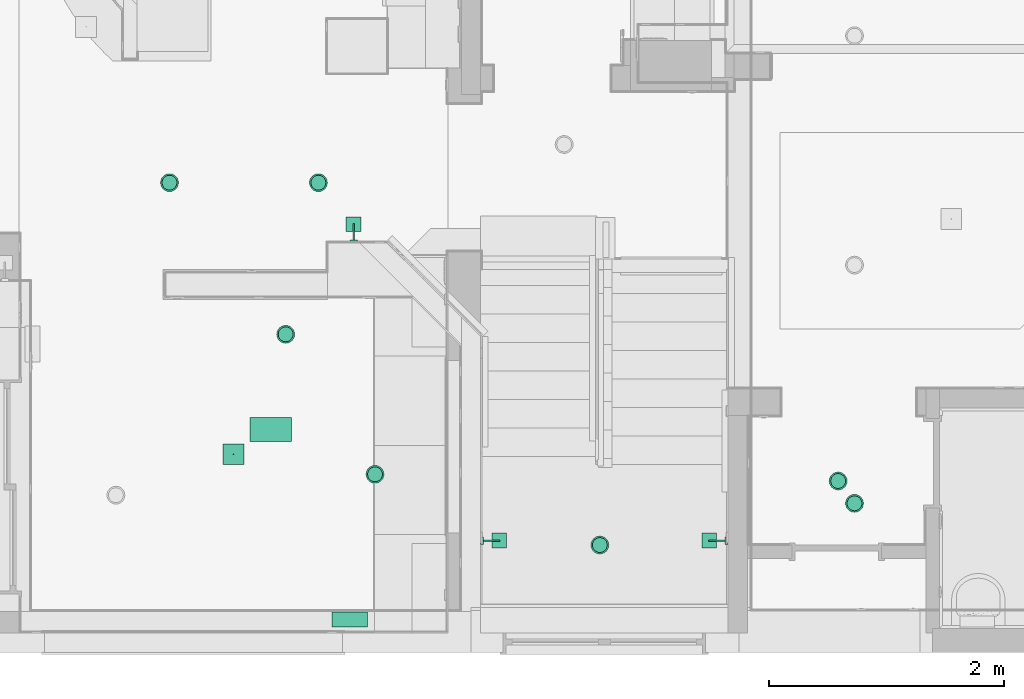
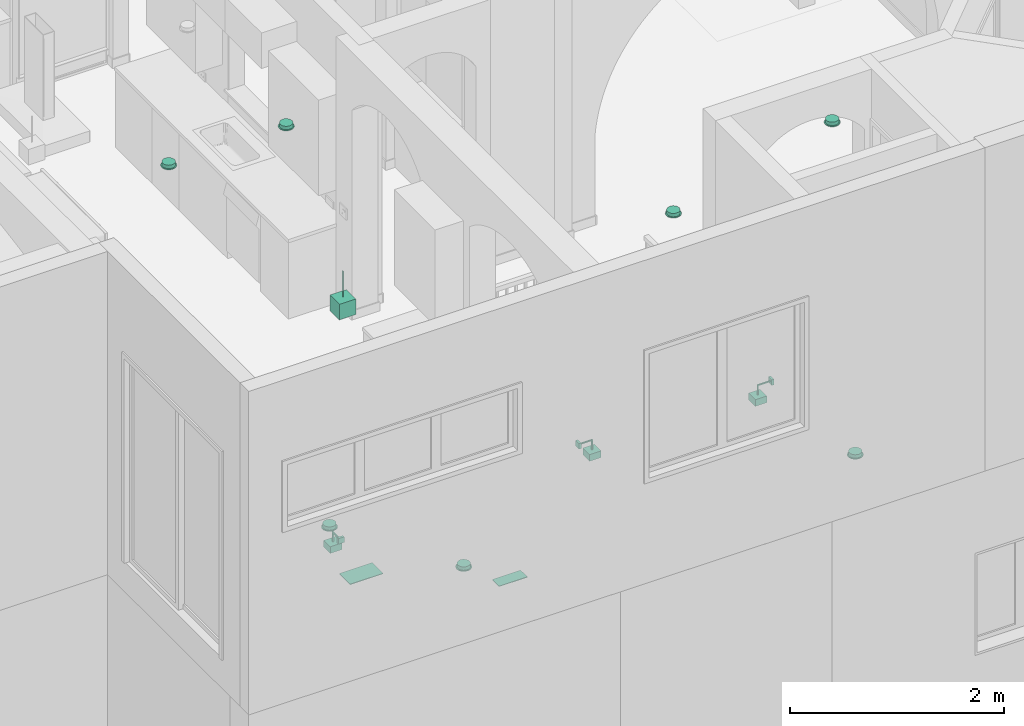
# One storey, part 37 of 60: 13 flow terminals.
"""IFC2X3 building model written with IfcOpenShell, lengths in feet."""

from ifc_helpers import new_model, entity, si_unit, converted_unit, direction, frame, frame_2d, origin, origin_2d_with_axis, place, context, subcontext, project, spatial, rectangle, extrude, faceted_brep, source, transform, mapped, material, material_list, type_object, type_shapes, element, save


model = new_model("IFC2X3")

# Units and contexts
model_context = context("Model", 3, precision=0.0001, world=origin(), true_north=direction((6.123031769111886e-17, 1.0)))
plan_context = context("Plan", 3, precision=0.0001, world=origin(), true_north=direction((6.123031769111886e-17, 1.0)))
body_context = subcontext(model_context, "Body", "Model", "MODEL_VIEW")
ifc_project = project(units=[converted_unit("LENGTHUNIT", "FOOT", entity("IfcLengthMeasure", 0.3048), si_unit("LENGTHUNIT", "METRE"), dimensions=[1, 0, 0, 0, 0, 0, 0]), converted_unit("AREAUNIT", "SQUARE FOOT", entity("IfcAreaMeasure", 0.09290304), si_unit("AREAUNIT", "SQUARE_METRE"), dimensions=[2, 0, 0, 0, 0, 0, 0]), converted_unit("PLANEANGLEUNIT", "DEGREE", entity("IfcPlaneAngleMeasure", 0.017453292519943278), si_unit("PLANEANGLEUNIT", "RADIAN"), dimensions=[0, 0, 0, 0, 0, 0, 0])], contexts=[model_context, plan_context])

# Site, building, storey
site_placement = place(None, origin())
site = spatial("IfcSite", under=ifc_project, at=site_placement, Name="Default", CompositionType="ELEMENT")
building_placement = place(site_placement, origin())
building = spatial("IfcBuilding", under=site, at=building_placement, CompositionType="ELEMENT")
storey_placement = place(building_placement, origin())
storey = spatial("IfcBuildingStorey", under=building, at=storey_placement, Name="First floor", CompositionType="ELEMENT", Elevation=0.0)

# Flow terminals
ifc_material_1 = material(Name="Default New Material")
ifc_material_2 = material(Name="Glass, White, High Luminance")
ifc_material_list = material_list([ifc_material_1, ifc_material_2])
light_fixture_type_1 = type_object("IfcLightFixtureType", Name="C_Spotlight Recessed:Light 2", PredefinedType="NOTDEFINED", material=ifc_material_list)
shared_shape_1 = source(origin(), body_context, "Body", "Brep", [
    faceted_brep([(-0.12499999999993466, 0.21650635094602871, 0.020833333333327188), (-0.17677669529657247, 0.17677669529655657, 0.020833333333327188), (-0.08333333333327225, 0.14433756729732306, 0.020833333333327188), (-0.04313650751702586, 0.1609876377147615, 0.020833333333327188), (-0.0647047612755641, 0.24148145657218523, 0.020833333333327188), (-0.11785113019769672, 0.11785113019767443, 0.020833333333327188), (-0.21650635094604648, 0.12499999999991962, 0.020833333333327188), (-0.1443375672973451, 0.08333333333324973, 0.020833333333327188), (-0.16098763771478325, 0.04313650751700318, 0.020833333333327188), (-0.2414814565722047, 0.06470476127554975, 0.020833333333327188), (-0.166666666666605, 0.0, 0.020833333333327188), (-0.24999999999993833, 0.0, 0.020833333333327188), (-0.16098763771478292, -0.043136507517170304, 0.020833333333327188), (-0.24148145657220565, -0.06470476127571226, 0.020833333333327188), (-0.14433756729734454, -0.08333333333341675, 0.020833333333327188), (-0.2165063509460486, -0.12500000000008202, 0.020833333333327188), (-0.117851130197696, -0.11785113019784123, 0.020833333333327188), (-0.1767766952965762, -0.17677669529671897, 0.020833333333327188), (-0.08333333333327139, -0.14433756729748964, 0.020833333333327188), (-0.12499999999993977, -0.21650635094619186, 0.020833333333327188), (-0.04313650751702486, -0.16098763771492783, 0.020833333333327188), (-0.06470476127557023, -0.24148145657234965, 0.020833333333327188), (0.0, -0.1666666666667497, 0.020833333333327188), (0.0, -0.25000000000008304, 0.020833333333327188), (0.04313650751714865, -0.1609876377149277, 0.020833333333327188), (0.06470476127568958, -0.24148145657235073, 0.020833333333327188), (0.08333333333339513, -0.1443375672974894, 0.020833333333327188), (0.12500000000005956, -0.21650635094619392, 0.020833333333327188), (0.11785113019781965, -0.11785113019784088, 0.020833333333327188), (0.1767766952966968, -0.1767766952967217, 0.020833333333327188), (0.14433756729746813, -0.0833333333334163, 0.020833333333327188), (0.21650635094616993, -0.12500000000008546, 0.020833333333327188), (0.24148145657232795, -0.06470476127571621, 0.020833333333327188), (0.16098763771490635, -0.0431365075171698, 0.020833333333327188), (0.2500000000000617, 0.0, 0.020833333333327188), (0.1666666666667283, 0.0, 0.020833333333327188), (0.24148145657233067, 0.06470476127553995, 0.020833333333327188), (0.16098763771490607, 0.04313650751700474, 0.020833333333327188), (0.21650635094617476, 0.12499999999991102, 0.020833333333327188), (0.14433756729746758, 0.08333333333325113, 0.020833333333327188), (0.17677669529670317, 0.17677669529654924, 0.020833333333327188), (0.1178511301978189, 0.11785113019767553, 0.020833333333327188), (0.1250000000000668, 0.21650635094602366, 0.020833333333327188), (0.08333333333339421, 0.14433756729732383, 0.020833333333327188), (0.06470476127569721, 0.2414814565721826, 0.020833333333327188), (0.04313650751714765, 0.16098763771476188, 0.020833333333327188), (0.0, 0.24999999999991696, 0.020833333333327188), (0.0, 0.1666666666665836, 0.020833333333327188), (-0.12499999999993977, -0.21650635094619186, 0.0), (-0.1767766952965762, -0.17677669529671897, 0.0), (-0.08333333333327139, -0.14433756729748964, 0.0), (-0.04313650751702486, -0.16098763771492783, 0.0), (-0.06470476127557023, -0.24148145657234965, 0.0), (-0.117851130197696, -0.11785113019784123, 0.0), (-0.2165063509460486, -0.12500000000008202, 0.0), (-0.14433756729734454, -0.08333333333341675, 0.0), (-0.16098763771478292, -0.043136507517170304, 0.0), (-0.24148145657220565, -0.06470476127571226, 0.0), (-0.166666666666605, 0.0, 0.0), (-0.24999999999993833, 0.0, 0.0), (-0.16098763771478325, 0.04313650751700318, 0.0), (-0.2414814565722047, 0.06470476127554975, 0.0), (-0.1443375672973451, 0.08333333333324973, 0.0), (-0.21650635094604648, 0.12499999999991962, 0.0), (-0.11785113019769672, 0.11785113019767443, 0.0), (-0.17677669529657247, 0.17677669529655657, 0.0), (-0.08333333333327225, 0.14433756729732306, 0.0), (-0.12499999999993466, 0.21650635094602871, 0.0), (-0.04313650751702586, 0.1609876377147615, 0.0), (-0.0647047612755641, 0.24148145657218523, 0.0), (0.0, 0.1666666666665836, 0.0), (0.0, 0.24999999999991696, 0.0), (0.04313650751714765, 0.16098763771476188, 0.0), (0.06470476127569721, 0.2414814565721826, 0.0), (0.08333333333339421, 0.14433756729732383, 0.0), (0.1250000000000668, 0.21650635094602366, 0.0), (0.1178511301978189, 0.11785113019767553, 0.0), (0.17677669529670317, 0.17677669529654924, 0.0), (0.14433756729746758, 0.08333333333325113, 0.0), (0.21650635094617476, 0.12499999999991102, 0.0), (0.24148145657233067, 0.06470476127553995, 0.0), (0.16098763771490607, 0.04313650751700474, 0.0), (0.2500000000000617, 0.0, 0.0), (0.1666666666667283, 0.0, 0.0), (0.24148145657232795, -0.06470476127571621, 0.0), (0.16098763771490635, -0.0431365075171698, 0.0), (0.21650635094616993, -0.12500000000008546, 0.0), (0.14433756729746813, -0.0833333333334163, 0.0), (0.1767766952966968, -0.1767766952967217, 0.0), (0.11785113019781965, -0.11785113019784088, 0.0), (0.12500000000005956, -0.21650635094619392, 0.0), (0.08333333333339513, -0.1443375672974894, 0.0), (0.06470476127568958, -0.24148145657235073, 0.0), (0.04313650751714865, -0.1609876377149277, 0.0), (0.0, -0.25000000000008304, 0.0), (0.0, -0.1666666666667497, 0.0)], [[[0, 1, 2]], [[0, 2, 3]], [[3, 4, 0]], [[2, 1, 5]], [[6, 5, 1]], [[7, 5, 6]], [[8, 7, 6]], [[8, 6, 9]], [[8, 9, 10]], [[10, 9, 11]], [[12, 10, 11]], [[12, 11, 13]], [[14, 12, 13]], [[14, 13, 15]], [[16, 14, 15]], [[15, 17, 16]], [[17, 18, 16]], [[18, 17, 19]], [[18, 19, 20]], [[21, 20, 19]], [[20, 21, 22]], [[22, 21, 23]], [[23, 24, 22]], [[24, 23, 25]], [[24, 25, 26]], [[27, 26, 25]], [[27, 28, 26]], [[27, 29, 28]], [[30, 28, 29]], [[31, 30, 29]], [[32, 30, 31]], [[33, 30, 32]], [[33, 32, 34]], [[34, 35, 33]], [[36, 35, 34]], [[36, 37, 35]], [[37, 36, 38]], [[39, 37, 38]], [[39, 38, 40]], [[39, 40, 41]], [[40, 42, 41]], [[41, 42, 43]], [[43, 42, 44]], [[44, 45, 43]], [[46, 45, 44]], [[4, 47, 46]], [[45, 46, 47]], [[4, 3, 47]], [[48, 49, 50]], [[48, 50, 51]], [[51, 52, 48]], [[50, 49, 53]], [[54, 53, 49]], [[55, 53, 54]], [[56, 55, 54]], [[56, 54, 57]], [[56, 57, 58]], [[58, 57, 59]], [[60, 58, 59]], [[60, 59, 61]], [[62, 60, 61]], [[62, 61, 63]], [[64, 62, 63]], [[63, 65, 64]], [[65, 66, 64]], [[66, 65, 67]], [[66, 67, 68]], [[69, 68, 67]], [[68, 69, 70]], [[70, 69, 71]], [[71, 72, 70]], [[72, 71, 73]], [[72, 73, 74]], [[75, 74, 73]], [[75, 76, 74]], [[75, 77, 76]], [[78, 76, 77]], [[79, 78, 77]], [[80, 78, 79]], [[81, 78, 80]], [[81, 80, 82]], [[82, 83, 81]], [[84, 83, 82]], [[84, 85, 83]], [[85, 84, 86]], [[87, 85, 86]], [[87, 86, 88]], [[87, 88, 89]], [[88, 90, 89]], [[89, 90, 91]], [[91, 90, 92]], [[92, 93, 91]], [[94, 93, 92]], [[52, 95, 94]], [[93, 94, 95]], [[52, 51, 95]], [[10, 58, 60, 8]], [[8, 60, 62, 7]], [[2, 5, 64, 66]], [[62, 64, 5, 7]], [[3, 2, 66, 68]], [[70, 47, 3, 68]], [[45, 72, 74, 43]], [[43, 74, 76, 41]], [[37, 39, 78, 81]], [[76, 78, 39, 41]], [[35, 37, 81, 83]], [[45, 47, 70, 72]], [[35, 83, 85, 33]], [[33, 85, 87, 30]], [[26, 28, 89, 91]], [[87, 89, 28, 30]], [[24, 26, 91, 93]], [[95, 22, 24, 93]], [[20, 51, 50, 18]], [[18, 50, 53, 16]], [[12, 14, 55, 56]], [[53, 55, 14, 16]], [[10, 12, 56, 58]], [[20, 22, 95, 51]], [[57, 13, 11, 59]], [[54, 15, 13, 57]], [[19, 17, 49, 48]], [[54, 49, 17, 15]], [[21, 19, 48, 52]], [[23, 21, 52, 94]], [[92, 25, 23, 94]], [[90, 27, 25, 92]], [[31, 29, 88, 86]], [[90, 88, 29, 27]], [[32, 31, 86, 84]], [[34, 32, 84, 82]], [[80, 36, 34, 82]], [[79, 38, 36, 80]], [[42, 40, 77, 75]], [[79, 77, 40, 38]], [[44, 42, 75, 73]], [[46, 44, 73, 71]], [[69, 4, 46, 71]], [[67, 0, 4, 69]], [[6, 1, 65, 63]], [[67, 65, 1, 0]], [[9, 6, 63, 61]], [[11, 9, 61, 59]]]),
    faceted_brep([(0.043136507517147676, -0.160987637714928, 0.020833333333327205), (0.08333333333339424, -0.14433756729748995, 0.020833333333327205), (0.11785113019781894, -0.11785113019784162, 0.020833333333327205), (0.14433756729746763, -0.08333333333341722, 0.020833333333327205), (0.16098763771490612, -0.043136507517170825, 0.020833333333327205), (0.16666666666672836, 0.0, 0.020833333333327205), (0.1609876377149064, 0.04313650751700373, 0.020833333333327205), (0.1443375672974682, 0.08333333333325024, 0.020833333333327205), (0.11785113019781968, 0.11785113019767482, 0.020833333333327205), (0.08333333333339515, 0.14433756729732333, 0.020833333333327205), (0.043136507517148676, 0.16098763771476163, 0.020833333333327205), (0.0, 0.16666666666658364, 0.020833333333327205), (-0.04313650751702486, 0.16098763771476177, 0.020833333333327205), (-0.08333333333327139, 0.14433756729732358, 0.020833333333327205), (-0.117851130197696, 0.11785113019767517, 0.020833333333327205), (-0.1443375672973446, 0.08333333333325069, 0.020833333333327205), (-0.16098763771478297, 0.043136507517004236, 0.020833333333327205), (-0.166666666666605, 0.0, 0.020833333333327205), (-0.1609876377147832, -0.04313650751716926, 0.020833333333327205), (-0.14433756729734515, -0.08333333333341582, 0.020833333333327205), (-0.11785113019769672, -0.11785113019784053, 0.020833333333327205), (-0.08333333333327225, -0.14433756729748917, 0.020833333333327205), (-0.04313650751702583, -0.1609876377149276, 0.020833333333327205), (0.0, -0.16666666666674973, 0.020833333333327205), (0.043136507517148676, 0.16098763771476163, 0.0), (0.08333333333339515, 0.14433756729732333, 0.0), (0.11785113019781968, 0.11785113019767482, 0.0), (0.1443375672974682, 0.08333333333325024, 0.0), (0.1609876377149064, 0.04313650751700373, 0.0), (0.16666666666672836, 0.0, 0.0), (0.16098763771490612, -0.043136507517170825, 0.0), (0.14433756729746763, -0.08333333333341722, 0.0), (0.11785113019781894, -0.11785113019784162, 0.0), (0.08333333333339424, -0.14433756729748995, 0.0), (0.043136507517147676, -0.160987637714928, 0.0), (0.0, -0.16666666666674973, 0.0), (-0.04313650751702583, -0.1609876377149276, 0.0), (-0.08333333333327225, -0.14433756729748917, 0.0), (-0.11785113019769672, -0.11785113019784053, 0.0), (-0.14433756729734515, -0.08333333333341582, 0.0), (-0.1609876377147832, -0.04313650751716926, 0.0), (-0.166666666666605, 0.0, 0.0), (-0.16098763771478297, 0.043136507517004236, 0.0), (-0.1443375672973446, 0.08333333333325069, 0.0), (-0.117851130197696, 0.11785113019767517, 0.0), (-0.08333333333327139, 0.14433756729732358, 0.0), (-0.04313650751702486, 0.16098763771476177, 0.0), (0.0, 0.16666666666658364, 0.0)], [[[0, 1, 2, 3, 4, 5, 6, 7, 8, 9, 10, 11, 12, 13, 14, 15, 16, 17, 18, 19, 20, 21, 22, 23]], [[24, 25, 26, 27, 28, 29, 30, 31, 32, 33, 34, 35, 36, 37, 38, 39, 40, 41, 42, 43, 44, 45, 46, 47]], [[40, 18, 17, 41]], [[39, 19, 18, 40]], [[21, 20, 38, 37]], [[39, 38, 20, 19]], [[22, 21, 37, 36]], [[23, 22, 36, 35]], [[34, 0, 23, 35]], [[33, 1, 0, 34]], [[3, 2, 32, 31]], [[33, 32, 2, 1]], [[4, 3, 31, 30]], [[5, 4, 30, 29]], [[28, 6, 5, 29]], [[27, 7, 6, 28]], [[9, 8, 26, 25]], [[27, 26, 8, 7]], [[10, 9, 25, 24]], [[11, 10, 24, 47]], [[46, 12, 11, 47]], [[45, 13, 12, 46]], [[15, 14, 44, 43]], [[45, 44, 14, 13]], [[16, 15, 43, 42]], [[17, 16, 42, 41]]]),
    faceted_brep([(0.0, -0.16666666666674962, -0.10416666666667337), (0.04313650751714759, -0.1609876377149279, -0.10416666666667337), (0.08333333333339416, -0.1443375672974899, -0.10416666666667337), (0.1178511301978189, -0.11785113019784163, -0.10416666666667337), (0.1443375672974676, -0.08333333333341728, -0.10416666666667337), (0.16098763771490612, -0.043136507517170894, -0.10416666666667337), (0.16666666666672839, 0.0, -0.10416666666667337), (0.16098763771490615, 0.04313650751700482, -0.10416666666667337), (0.14433756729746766, 0.08333333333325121, -0.10416666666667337), (0.11785113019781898, 0.11785113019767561, -0.10416666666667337), (0.0833333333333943, 0.14433756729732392, -0.10416666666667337), (0.04313650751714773, 0.16098763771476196, -0.10416666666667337), (0.0, 0.1666666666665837, -0.10416666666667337), (-0.043136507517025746, 0.16098763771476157, -0.10416666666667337), (-0.08333333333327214, 0.14433756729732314, -0.10416666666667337), (-0.11785113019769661, 0.11785113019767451, -0.10416666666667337), (-0.14433756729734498, 0.08333333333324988, -0.10416666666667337), (-0.16098763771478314, 0.04313650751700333, -0.10416666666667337), (-0.16666666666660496, 0.0, -0.10416666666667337), (-0.16098763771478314, -0.04313650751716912, -0.10416666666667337), (-0.1443375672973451, -0.08333333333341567, -0.10416666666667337), (-0.11785113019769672, -0.11785113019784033, -0.10416666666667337), (-0.08333333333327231, -0.14433756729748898, -0.10416666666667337), (-0.04313650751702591, -0.16098763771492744, -0.10416666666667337), (0.0, 0.20833333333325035, -0.12500000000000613), (0.053920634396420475, 0.20123454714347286, -0.12500000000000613), (0.10416666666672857, 0.18042195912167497, -0.12500000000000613), (0.14731391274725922, 0.14731391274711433, -0.12500000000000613), (0.18042195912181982, 0.1041666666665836, -0.12500000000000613), (0.2012345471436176, 0.053920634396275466, -0.12500000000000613), (0.20833333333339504, 0.0, -0.12500000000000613), (0.20123454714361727, -0.0539206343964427, -0.12500000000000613), (0.18042195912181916, -0.10416666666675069, -0.12500000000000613), (0.1473139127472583, -0.14731391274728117, -0.12500000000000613), (0.10416666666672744, -0.18042195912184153, -0.12500000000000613), (0.053920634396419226, -0.2012345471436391, -0.12500000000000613), (0.0, -0.20833333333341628, -0.12500000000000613), (-0.05392063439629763, -0.20123454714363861, -0.12500000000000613), (-0.10416666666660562, -0.18042195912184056, -0.12500000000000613), (-0.14731391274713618, -0.1473139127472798, -0.12500000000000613), (-0.18042195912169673, -0.10416666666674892, -0.12500000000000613), (-0.20123454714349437, -0.05392063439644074, -0.12500000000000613), (-0.2083333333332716, 0.0, -0.12500000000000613), (-0.20123454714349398, 0.053920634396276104, -0.12500000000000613), (-0.18042195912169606, 0.10416666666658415, -0.12500000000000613), (-0.1473139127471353, 0.14731391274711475, -0.12500000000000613), (-0.10416666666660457, 0.1804219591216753, -0.12500000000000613), (-0.05392063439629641, 0.20123454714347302, -0.12500000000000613), (-0.2012345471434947, -0.053920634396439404, -0.10416666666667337), (-0.20123454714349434, -0.053920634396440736, 0.0), (-0.20833333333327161, 0.0, 0.0), (-0.2083333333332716, 0.0, -0.10416666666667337), (-0.1804219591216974, -0.10416666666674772, -0.10416666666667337), (-0.1804219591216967, -0.10416666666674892, 0.0), (-0.10416666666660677, -0.18042195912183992, -0.10416666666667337), (-0.10416666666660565, -0.18042195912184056, 0.0), (-0.1473139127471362, -0.1473139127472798, 0.0), (-0.14731391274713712, -0.14731391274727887, -0.10416666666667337), (-0.053920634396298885, -0.20123454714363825, -0.10416666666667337), (-0.05392063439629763, -0.20123454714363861, 0.0), (0.0, -0.20833333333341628, -0.10416666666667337), (0.0, -0.20833333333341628, 0.0), (0.05392063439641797, -0.20123454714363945, -0.10416666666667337), (0.053920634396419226, -0.2012345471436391, 0.0), (0.10416666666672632, -0.1804219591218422, -0.10416666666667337), (0.10416666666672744, -0.18042195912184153, 0.0), (0.1804219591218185, -0.1041666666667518, -0.10416666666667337), (0.18042195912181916, -0.10416666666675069, 0.0), (0.1473139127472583, -0.14731391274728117, 0.0), (0.1473139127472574, -0.1473139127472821, -0.10416666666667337), (0.20123454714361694, -0.05392063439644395, -0.10416666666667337), (0.20123454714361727, -0.05392063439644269, 0.0), (0.20833333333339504, 0.0, -0.10416666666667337), (0.20833333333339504, 0.0, 0.0), (0.2012345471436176, 0.053920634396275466, -0.10416666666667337), (0.2012345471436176, 0.05392063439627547, 0.0), (0.18042195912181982, 0.1041666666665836, -0.10416666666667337), (0.18042195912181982, 0.1041666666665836, 0.0), (0.10416666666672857, 0.18042195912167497, -0.10416666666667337), (0.10416666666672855, 0.18042195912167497, 0.0), (0.14731391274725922, 0.14731391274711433, 0.0), (0.14731391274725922, 0.14731391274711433, -0.10416666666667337), (0.053920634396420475, 0.20123454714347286, -0.10416666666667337), (0.053920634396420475, 0.20123454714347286, 0.0), (0.0, 0.20833333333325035, -0.10416666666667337), (0.0, 0.20833333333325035, 0.0), (-0.05392063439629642, 0.20123454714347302, -0.10416666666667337), (-0.05392063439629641, 0.20123454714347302, 0.0), (-0.10416666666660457, 0.1804219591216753, -0.10416666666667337), (-0.10416666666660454, 0.1804219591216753, 0.0), (-0.18042195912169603, 0.10416666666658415, -0.10416666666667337), (-0.18042195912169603, 0.10416666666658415, 0.0), (-0.14731391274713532, 0.14731391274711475, 0.0), (-0.14731391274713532, 0.14731391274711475, -0.10416666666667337), (-0.20123454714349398, 0.053920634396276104, -0.10416666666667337), (-0.20123454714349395, 0.05392063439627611, 0.0), (-0.08333333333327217, 0.14433756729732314, 0.0), (-0.043136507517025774, 0.16098763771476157, 0.0), (-0.11785113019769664, 0.11785113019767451, 0.0), (-0.144337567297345, 0.08333333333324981, 0.0), (-0.16098763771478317, 0.04313650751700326, 0.0), (-0.16666666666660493, 0.0, 0.0), (-0.16098763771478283, -0.04313650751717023, 0.0), (-0.14433756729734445, -0.08333333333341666, 0.0), (-0.11785113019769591, -0.11785113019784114, 0.0), (-0.08333333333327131, -0.14433756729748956, 0.0), (-0.043136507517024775, -0.16098763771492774, 0.0), (0.0, -0.16666666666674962, 0.0), (0.04313650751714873, -0.1609876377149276, 0.0), (0.08333333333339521, -0.1443375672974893, 0.0), (0.11785113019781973, -0.1178511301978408, 0.0), (0.14433756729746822, -0.08333333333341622, 0.0), (0.16098763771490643, -0.04313650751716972, 0.0), (0.16666666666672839, 0.0, 0.0), (0.16098763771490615, 0.04313650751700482, 0.0), (0.14433756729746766, 0.08333333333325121, 0.0), (0.11785113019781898, 0.11785113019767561, 0.0), (0.0833333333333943, 0.14433756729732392, 0.0), (0.04313650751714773, 0.16098763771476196, 0.0), (0.0, 0.1666666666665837, 0.0)], [[[0, 1, 2, 3, 4, 5, 6, 7, 8, 9, 10, 11, 12, 13, 14, 15, 16, 17, 18, 19, 20, 21, 22, 23]], [[24, 25, 26, 27, 28, 29, 30, 31, 32, 33, 34, 35, 36, 37, 38, 39, 40, 41, 42, 43, 44, 45, 46, 47]], [[41, 48, 49, 50, 51, 42]], [[40, 52, 53, 49, 48, 41]], [[54, 55, 56, 57, 39, 38]], [[40, 39, 57, 56, 53, 52]], [[58, 59, 55, 54, 38, 37]], [[60, 61, 59, 58, 37, 36]], [[35, 62, 63, 61, 60, 36]], [[34, 64, 65, 63, 62, 35]], [[66, 67, 68, 69, 33, 32]], [[34, 33, 69, 68, 65, 64]], [[70, 71, 67, 66, 32, 31]], [[72, 73, 71, 70, 31, 30]], [[29, 74, 75, 73, 72, 30]], [[28, 76, 77, 75, 74, 29]], [[78, 79, 80, 81, 27, 26]], [[28, 27, 81, 80, 77, 76]], [[82, 83, 79, 78, 26, 25]], [[84, 85, 83, 82, 25, 24]], [[47, 86, 87, 85, 84, 24]], [[46, 88, 89, 87, 86, 47]], [[90, 91, 92, 93, 45, 44]], [[46, 45, 93, 92, 89, 88]], [[94, 95, 91, 90, 44, 43]], [[51, 50, 95, 94, 43, 42]], [[89, 92, 96]], [[89, 96, 97]], [[97, 87, 89]], [[96, 92, 98]], [[91, 98, 92]], [[99, 98, 91]], [[100, 99, 91]], [[100, 91, 95]], [[100, 95, 101]], [[101, 95, 50]], [[102, 101, 50]], [[102, 50, 49]], [[103, 102, 49]], [[103, 49, 53]], [[104, 103, 53]], [[53, 56, 104]], [[56, 105, 104]], [[105, 56, 55]], [[105, 55, 106]], [[59, 106, 55]], [[106, 59, 107]], [[107, 59, 61]], [[61, 108, 107]], [[108, 61, 63]], [[108, 63, 109]], [[65, 109, 63]], [[65, 110, 109]], [[65, 68, 110]], [[111, 110, 68]], [[67, 111, 68]], [[71, 111, 67]], [[112, 111, 71]], [[112, 71, 73]], [[73, 113, 112]], [[75, 113, 73]], [[75, 114, 113]], [[114, 75, 77]], [[115, 114, 77]], [[115, 77, 80]], [[115, 80, 116]], [[80, 79, 116]], [[116, 79, 117]], [[117, 79, 83]], [[83, 118, 117]], [[85, 118, 83]], [[87, 119, 85]], [[85, 119, 118]], [[87, 97, 119]], [[113, 6, 5, 112]], [[112, 5, 4, 111]], [[109, 110, 3, 2]], [[4, 3, 110, 111]], [[108, 109, 2, 1]], [[0, 107, 108, 1]], [[104, 105, 22, 21]], [[23, 22, 105, 106]], [[102, 103, 20, 19]], [[104, 21, 20, 103]], [[102, 19, 18, 101]], [[0, 23, 106, 107]], [[101, 18, 17, 100]], [[100, 17, 16, 99]], [[96, 98, 15, 14]], [[16, 15, 98, 99]], [[97, 96, 14, 13]], [[12, 119, 97, 13]], [[118, 11, 10, 117]], [[117, 10, 9, 116]], [[114, 115, 8, 7]], [[9, 8, 115, 116]], [[113, 114, 7, 6]], [[118, 119, 12, 11]]]),
])
type_shapes(light_fixture_type_1, [shared_shape_1])
for number, where, z_axis, x_axis, name in (
    (1, (23.458333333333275, 4.791666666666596, 20.666666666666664), (0.0, 0.0, -1.0), (1.0, -1.3611479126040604e-06, 0.0), "C_Spotlight Recessed:Light 2"),
    (2, (16.791666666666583, 3.0, 20.666666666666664), (0.0, 0.0, -1.0), (1.0, 1.5552947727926e-05, 0.0), "C_Spotlight Recessed:Light 2"),
    (3, (4.749662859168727, 13.139818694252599, 20.541666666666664), (0.0, 0.0, -1.0), (0.0, -1.0, 0.0), "C_Spotlight Recessed:Light 2"),
    (4, (8.916329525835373, 13.139818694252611, 20.541666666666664), (0.0, 0.0, -1.0), (0.0, -1.0, 0.0), "C_Spotlight Recessed:Light 2"),
    (5, (23.91666666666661, 4.16675407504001, 8.416666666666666), (0.0, 0.0, -1.0), (0.0, -1.0, 0.0), "C_Spotlight Recessed:Light 2"),
    (6, (10.499998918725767, 4.979166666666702, 8.416666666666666), (0.0, 0.0, -1.0), (0.0, -1.0, 0.0), "C_Spotlight Recessed:Light 2"),
    (7, (7.999998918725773, 8.89587285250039, 8.416666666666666), (0.0, 0.0, -1.0), (0.0, -1.0, 0.0), "C_Spotlight Recessed:Light 2"),
):
    element("IfcFlowTerminal", number, at=place(storey_placement, frame(where, z_axis=z_axis, x_axis=x_axis)), inside=storey, type_object=light_fixture_type_1, material=ifc_material_list, Name=name, ObjectType="C_Spotlight Recessed:Light 2", context=body_context, shape_type="MappedRepresentation", body=[
        mapped(shared_shape_1, transform((0.0, 0.0, 0.0), scale=1.0)),
    ])
air_terminal_type_1 = type_object("IfcAirTerminalType", Name="C_Grill_Surface Based:Standard 2", PredefinedType="NOTDEFINED", material=ifc_material_1)
shared_shape_2 = source(origin(), body_context, "Body", "SweptSolid", [
    extrude(rectangle(XDim=0.4166666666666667, YDim=0.9999999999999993, at=origin_2d_with_axis()), frame((0.0, 0.0, 0.0), z_axis=(0.0, 0.0, 1.0), x_axis=(-1.0, 0.0, 0.0)), (0.0, 0.0, 1.0), 0.020833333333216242),
])
type_shapes(air_terminal_type_1, [shared_shape_2])
flow_terminal_1_placement = place(storey_placement, frame((9.79166666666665, 0.91666666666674, 10.666666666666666), z_axis=(0.0, 0.0, 1.0), x_axis=(0.0, -1.0, 0.0)))
element("IfcFlowTerminal", 8, at=flow_terminal_1_placement, inside=storey, type_object=air_terminal_type_1, material=ifc_material_1, Name="C_Grill_Surface Based:Standard 2", ObjectType="C_Grill_Surface Based:Standard 2", context=body_context, shape_type="MappedRepresentation", body=[
    mapped(shared_shape_2, transform((0.0, 0.0, 0.0), scale=1.0)),
])
air_terminal_type_2 = type_object("IfcAirTerminalType", Name="C_Grill_Surface Based:Standard 2", PredefinedType="NOTDEFINED", material=ifc_material_1)
shared_shape_3 = source(origin(), body_context, "Body", "SweptSolid", [
    extrude(rectangle(XDim=0.6666666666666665, YDim=1.1666666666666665, at=frame_2d((-2.7755575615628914e-17, 0.0), x_axis=(1.0, 0.0))), frame((0.0, 0.0, 0.0), z_axis=(0.0, 0.0, 1.0), x_axis=(-1.0, 0.0, 0.0)), (0.0, 0.0, 1.0), 0.020833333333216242),
])
type_shapes(air_terminal_type_2, [shared_shape_3])
flow_terminal_2_placement = place(storey_placement, frame((7.583391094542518, 6.229166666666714, 8.416666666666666), z_axis=(0.0, 0.0, -1.0), x_axis=(0.0, -1.0, 0.0)))
element("IfcFlowTerminal", 9, at=flow_terminal_2_placement, inside=storey, type_object=air_terminal_type_2, material=ifc_material_1, Name="C_Grill_Surface Based:Standard 2", ObjectType="C_Grill_Surface Based:Standard 2", context=body_context, shape_type="MappedRepresentation", body=[
    mapped(shared_shape_3, transform((0.0, 0.0, 0.0), scale=1.0)),
])
light_fixture_type_2 = type_object("IfcLightFixtureType", Name="C_Ceiling Lamp:C_Ceiling Lamp", PredefinedType="NOTDEFINED", material=ifc_material_1)
shared_shape_4 = source(origin(), body_context, "Body", "SweptSolid", [
    extrude(rectangle(XDim=0.5833333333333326, YDim=0.5833333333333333, at=origin_2d_with_axis()), frame((0.0, 0.0, -14.104166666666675), z_axis=(0.0, 0.0, 1.0), x_axis=(0.0, 1.0, 0.0)), (0.0, 0.0, 1.0), 0.5833333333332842),
    extrude(rectangle(XDim=0.02140587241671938, YDim=0.02083333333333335, at=origin_2d_with_axis()), frame((0.0, 0.0, -13.520833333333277), z_axis=(0.0, 0.0, 1.0), x_axis=(0.0, 1.0, 0.0)), (0.0, 0.0, 1.0), 0.9791666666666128),
])
type_shapes(light_fixture_type_2, [shared_shape_4])
flow_terminal_3_placement = place(storey_placement, frame((6.541666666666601, 5.541666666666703, 33.08333333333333)))
element("IfcFlowTerminal", 10, at=flow_terminal_3_placement, inside=storey, type_object=light_fixture_type_2, material=ifc_material_1, Name="C_Ceiling Lamp:C_Ceiling Lamp", ObjectType="C_Ceiling Lamp:C_Ceiling Lamp", context=body_context, shape_type="MappedRepresentation", body=[
    mapped(shared_shape_4, transform((0.0, 0.0, 0.0), scale=1.0)),
])
light_fixture_type_3 = type_object("IfcLightFixtureType", Name="C_Sconce Downwards:33700 ICARIA White ceiling fan / Wood Blade", PredefinedType="NOTDEFINED", material=ifc_material_1)
shared_shape_5 = source(origin(), body_context, "Body", "Brep", [
    faceted_brep([(-0.10416666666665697, -0.10416666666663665, 0.08333333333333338), (0.10416666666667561, -0.10416666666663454, 0.08333333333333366), (0.1041666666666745, 0.10416666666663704, 0.0833333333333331), (-0.1041666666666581, 0.1041666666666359, 0.08333333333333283), (0.020833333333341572, 0.020833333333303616, 0.08333333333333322), (0.020833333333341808, -0.02083333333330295, 0.08333333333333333), (-0.020833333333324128, -0.020833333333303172, 0.08333333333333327), (-0.020833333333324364, 0.020833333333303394, 0.08333333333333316), (-0.10416666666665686, -0.10416666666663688, 0.0), (-0.10416666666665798, 0.10416666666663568, 0.0), (0.10416666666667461, 0.10416666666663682, 0.0), (0.10416666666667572, -0.10416666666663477, 0.0), (0.020833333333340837, 0.020833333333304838, 0.5416666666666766), (0.02083333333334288, -0.3541666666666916, 0.5416666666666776), (0.02083333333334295, -0.3541666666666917, 0.500000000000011), (0.02083333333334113, -0.02083333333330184, 0.5000000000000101), (-0.020833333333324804, -0.020833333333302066, 0.50000000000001), (-0.020833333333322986, -0.35416666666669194, 0.5000000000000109), (-0.020833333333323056, -0.35416666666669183, 0.5416666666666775), (-0.0208333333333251, 0.020833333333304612, 0.5416666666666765)], [[[0, 1, 2, 3], [4, 5, 6, 7]], [[8, 9, 10, 11]], [[0, 3, 9, 8]], [[3, 2, 10, 9]], [[2, 1, 11, 10]], [[1, 0, 8, 11]], [[12, 13, 14, 15, 5, 4]], [[16, 17, 18, 19, 7, 6]], [[15, 16, 6, 5]], [[19, 12, 4, 7]], [[13, 12, 19, 18]], [[14, 13, 18, 17]], [[15, 14, 17, 16]]]),
    faceted_brep([(0.20833333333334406, -0.3541666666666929, 0.31600321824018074), (0.2083333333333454, -0.6041666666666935, 0.3160032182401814), (-0.20833333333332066, -0.6041666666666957, 0.3160032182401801), (-0.20833333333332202, -0.35416666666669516, 0.3160032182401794), (0.20833333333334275, -0.35416666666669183, 0.7205016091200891), (-0.2083333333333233, -0.3541666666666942, 0.7205016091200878), (-0.20833333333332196, -0.6041666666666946, 0.7205016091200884), (0.20833333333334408, -0.6041666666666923, 0.7205016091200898)], [[[0, 1, 2, 3]], [[4, 5, 6, 7]], [[4, 7, 1, 0]], [[7, 6, 2, 1]], [[6, 5, 3, 2]], [[5, 4, 0, 3]]]),
])
type_shapes(light_fixture_type_3, [shared_shape_5])
for number, where, z_axis, x_axis, name in (
    (11, (9.900621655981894, 11.458333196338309, 5.666666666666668), (2.0991945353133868e-05, 1.0, 0.0), (-1.0, 2.0991945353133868e-05, 0.0), "C_Sconce Downwards:33700 ICARIA White ceiling fan / Wood Blade"),
    (12, (20.375000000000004, 3.125000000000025, 13.0625), (-1.0, 0.0, 0.0), (0.0, -1.0, 0.0), "C_Sconce Downwards:33700 ICARIA White ceiling fan / Wood Blade"),
    (13, (13.458333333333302, 3.1250000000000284, 13.062440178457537), (1.0, 0.0, 0.0), (0.0, 1.0, 0.0), "C_Sconce Downwards:33700 ICARIA White ceiling fan / Wood Blade"),
):
    element("IfcFlowTerminal", number, at=place(storey_placement, frame(where, z_axis=z_axis, x_axis=x_axis)), inside=storey, type_object=light_fixture_type_3, material=ifc_material_1, Name=name, ObjectType="C_Sconce Downwards:33700 ICARIA White ceiling fan / Wood Blade", context=body_context, shape_type="MappedRepresentation", body=[
        mapped(shared_shape_5, transform((0.0, 0.0, 0.0), scale=1.0)),
    ])

save(model, "model.ifc")
